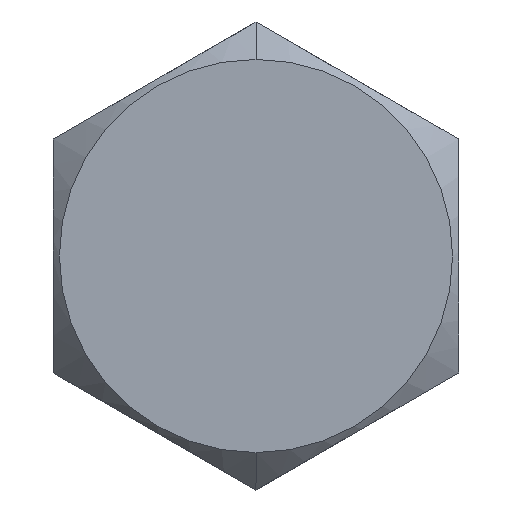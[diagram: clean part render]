
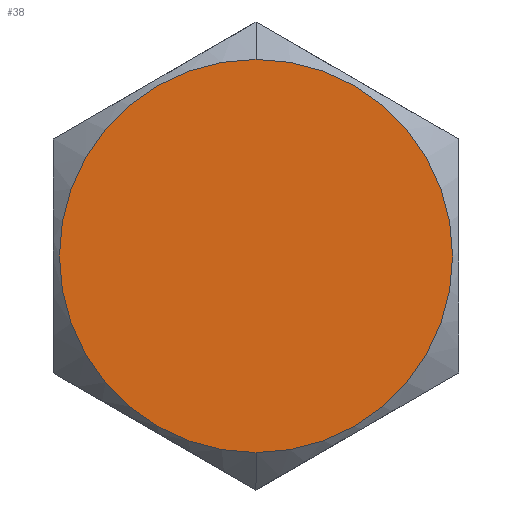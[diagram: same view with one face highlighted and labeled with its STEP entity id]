
A CAD part, left-side view. The second image highlights one B-rep face of the part: STEP entity #38.
In plain terms, the highlighted planar face has unit normal (-1, 0, 0).
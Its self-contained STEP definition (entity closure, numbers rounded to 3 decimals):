
#38 = ADVANCED_FACE ( 'NONE', ( #209 ), #281, .F. ) ;
#56 = CIRCLE ( 'NONE', #729, 6.306 ) ;
#109 = CIRCLE ( 'NONE', #510, 6.306 ) ;
#183 = DIRECTION ( 'NONE',  ( 0., 0., -1. ) ) ;
#185 = DIRECTION ( 'NONE',  ( 1., 0., 0. ) ) ;
#209 = FACE_OUTER_BOUND ( 'NONE', #752, .T. ) ;
#243 = DIRECTION ( 'NONE',  ( 0., 0., -1. ) ) ;
#274 = DIRECTION ( 'NONE',  ( 0., 0., -1. ) ) ;
#277 = ORIENTED_EDGE ( 'NONE', *, *, #297, .F. ) ;
#281 = PLANE ( 'NONE',  #796 ) ;
#297 = EDGE_CURVE ( 'NONE', #464, #744, #109, .T. ) ;
#321 = CARTESIAN_POINT ( 'NONE',  ( 0., 0., 0. ) ) ;
#323 = CARTESIAN_POINT ( 'NONE',  ( 0., 0., -6.306 ) ) ;
#335 = CARTESIAN_POINT ( 'NONE',  ( 0., 0., 6.306 ) ) ;
#464 = VERTEX_POINT ( 'NONE', #335 ) ;
#487 = CARTESIAN_POINT ( 'NONE',  ( 0., 0., 0. ) ) ;
#510 = AXIS2_PLACEMENT_3D ( 'NONE', #487, #750, #183 ) ;
#570 = CARTESIAN_POINT ( 'NONE',  ( 0., 0., 0. ) ) ;
#581 = DIRECTION ( 'NONE',  ( 1., 0., 0. ) ) ;
#586 = ORIENTED_EDGE ( 'NONE', *, *, #717, .F. ) ;
#717 = EDGE_CURVE ( 'NONE', #744, #464, #56, .T. ) ;
#729 = AXIS2_PLACEMENT_3D ( 'NONE', #570, #185, #243 ) ;
#744 = VERTEX_POINT ( 'NONE', #323 ) ;
#750 = DIRECTION ( 'NONE',  ( 1., 0., 0. ) ) ;
#752 = EDGE_LOOP ( 'NONE', ( #586, #277 ) ) ;
#796 = AXIS2_PLACEMENT_3D ( 'NONE', #321, #581, #274 ) ;
